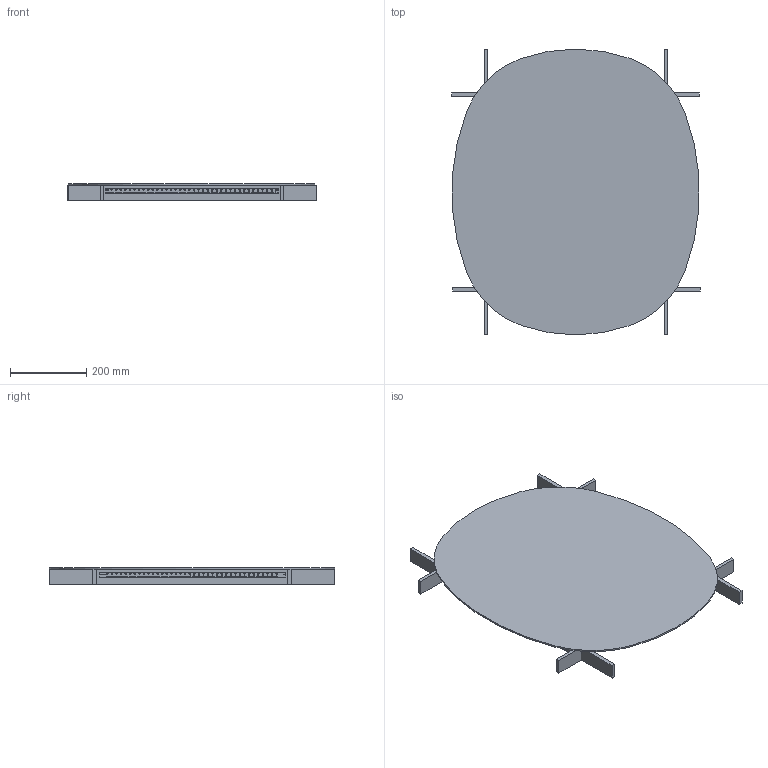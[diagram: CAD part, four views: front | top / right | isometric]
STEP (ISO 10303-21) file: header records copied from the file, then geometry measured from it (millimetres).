
FILE_DESCRIPTION (( 'STEP AP203' ), '1' );
FILE_NAME ('SPMK75.STEP', '2023-03-31T09:37:27', ( '' ), ( '' ), 'SwSTEP 2.0', 'SolidWorks 2023', '' );
FILE_SCHEMA (( 'CONFIG_CONTROL_DESIGN' ));
Length unit declared in the file: millimetre
Products named in the file (9): CONNETTORE; piano verticale 75x65; specchio 75x65; FIX ANGOLARE; piano orizzontale 75x65; trasformatore; SPMK75; piastra fix; FASCIA LED 1
Assembly tree (15 placements, depth 2):
  SPMK75
    specchio 75x65
    piano orizzontale 75x65  x2
    piano verticale 75x65  x2
    FIX ANGOLARE
    FASCIA LED 1  x4
    trasformatore
    CONNETTORE  x3
    piastra fix
Bounding box: 652 x 750 x 44 mm (x, y, z)
Volume: 3111912.2 mm3; surface area: 1759654.2 mm2
Topology: 15 solids, 15 shells, 1576 faces, 4174 edges, 2775 vertices
Faces by surface type: plane 911, cylinder 652, torus 11, sphere 2
Full cylindrical faces by diameter (mm): 2 x25, 3 x7, 4 x2
Entity records: 16603 total; most frequent: DIRECTION 2718, CARTESIAN_POINT 2705, ORIENTED_EDGE 2566, EDGE_CURVE 1283, AXIS2_PLACEMENT_3D 915, LINE 888, VECTOR 888, VERTEX_POINT 870
